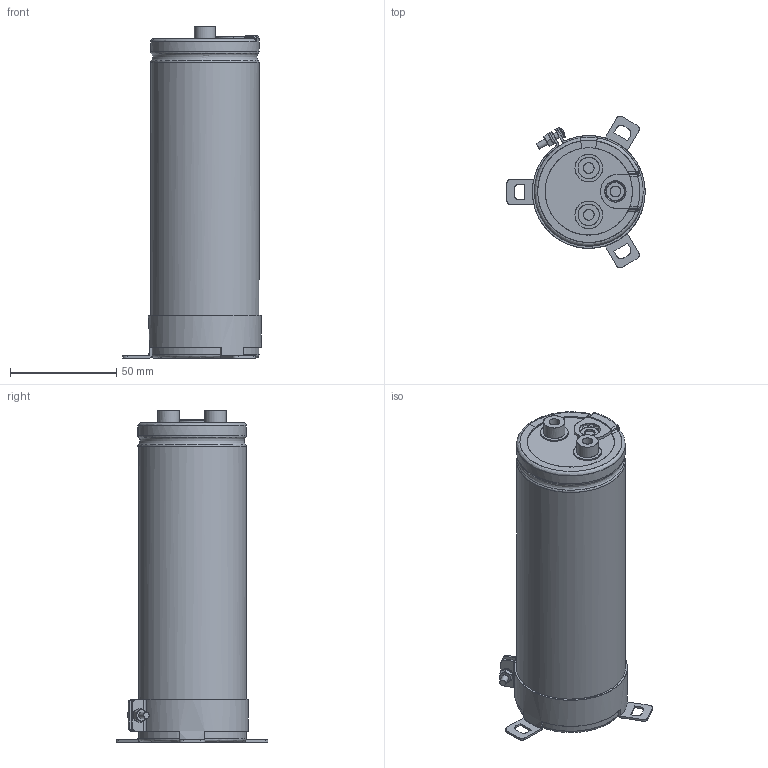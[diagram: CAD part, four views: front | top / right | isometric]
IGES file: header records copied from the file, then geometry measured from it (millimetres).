
Start section: JAMA-IS VERSION  1.0
Bounding box: 65 x 71.22 x 156 mm (x, y, z)
Surface area: 86247.1 mm2 (no closed solid volume)
Topology: 0 solids, 0 shells, 298 faces, 4625 edges, 4595 vertices
Faces by surface type: bspline 298
